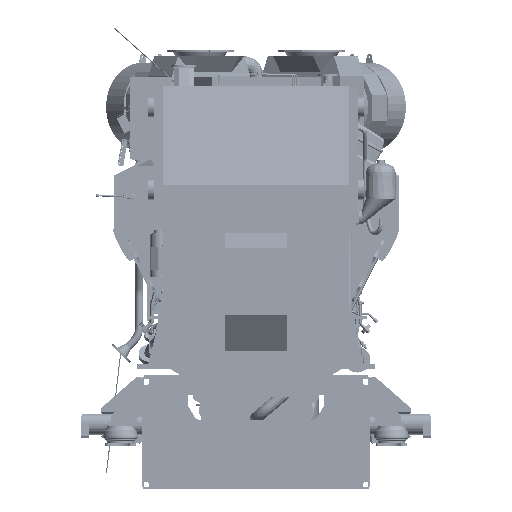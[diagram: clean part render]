
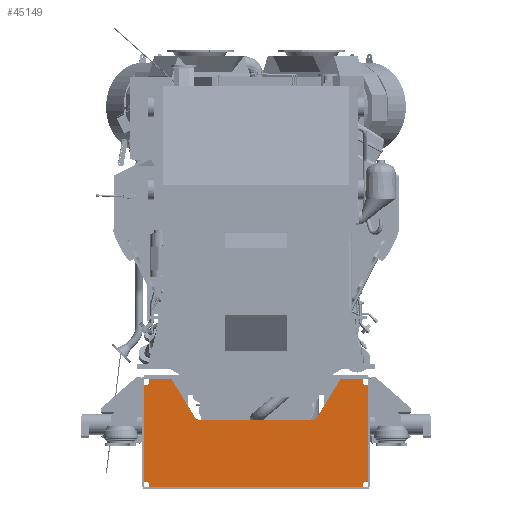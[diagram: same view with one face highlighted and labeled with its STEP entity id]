
A CAD part, left-side view. The second image highlights one B-rep face of the part: STEP entity #45149.
In plain terms, the highlighted planar face has unit normal (-1, 0, 0).
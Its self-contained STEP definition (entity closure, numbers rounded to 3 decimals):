
#34743=PLANE('',#314324);
#45149=ADVANCED_FACE('',(#68112),#34743,.T.);
#68112=FACE_OUTER_BOUND('',#82819,.T.);
#82819=EDGE_LOOP('',(#156120,#156121,#156122,#156123,#156124,#156125,#156126,
#156127,#156128,#156129,#156130,#156131,#156132,#156133,#156134,#156135,
#156136,#156137,#156138,#156139,#156140,#156141));
#106753=LINE('',#427133,#130207);
#106759=LINE('',#427146,#130213);
#106760=LINE('',#427148,#130214);
#106764=LINE('',#427157,#130218);
#106769=LINE('',#427167,#130223);
#106772=LINE('',#427174,#130226);
#106774=LINE('',#427178,#130228);
#106778=LINE('',#427187,#130232);
#106783=LINE('',#427197,#130237);
#106784=LINE('',#427199,#130238);
#106788=LINE('',#427208,#130242);
#106793=LINE('',#427218,#130247);
#106794=LINE('',#427220,#130248);
#106798=LINE('',#427229,#130252);
#106803=LINE('',#427239,#130257);
#106804=LINE('',#427241,#130258);
#130207=VECTOR('',#345289,1.);
#130213=VECTOR('',#345297,1.);
#130214=VECTOR('',#345300,1.);
#130218=VECTOR('',#345306,1.);
#130223=VECTOR('',#345313,1.);
#130226=VECTOR('',#345318,1.);
#130228=VECTOR('',#345322,1.);
#130232=VECTOR('',#345328,1.);
#130237=VECTOR('',#345335,1.);
#130238=VECTOR('',#345338,1.);
#130242=VECTOR('',#345344,1.);
#130247=VECTOR('',#345351,1.);
#130248=VECTOR('',#345354,1.);
#130252=VECTOR('',#345360,1.);
#130257=VECTOR('',#345367,1.);
#130258=VECTOR('',#345370,1.);
#156120=ORIENTED_EDGE('',*,*,#263638,.T.);
#156121=ORIENTED_EDGE('',*,*,#263644,.T.);
#156122=ORIENTED_EDGE('',*,*,#263698,.T.);
#156123=ORIENTED_EDGE('',*,*,#263645,.T.);
#156124=ORIENTED_EDGE('',*,*,#263649,.T.);
#156125=ORIENTED_EDGE('',*,*,#263654,.T.);
#156126=ORIENTED_EDGE('',*,*,#263699,.T.);
#156127=ORIENTED_EDGE('',*,*,#263657,.T.);
#156128=ORIENTED_EDGE('',*,*,#263700,.T.);
#156129=ORIENTED_EDGE('',*,*,#263659,.T.);
#156130=ORIENTED_EDGE('',*,*,#263663,.T.);
#156131=ORIENTED_EDGE('',*,*,#263668,.T.);
#156132=ORIENTED_EDGE('',*,*,#263701,.T.);
#156133=ORIENTED_EDGE('',*,*,#263669,.T.);
#156134=ORIENTED_EDGE('',*,*,#263673,.T.);
#156135=ORIENTED_EDGE('',*,*,#263678,.T.);
#156136=ORIENTED_EDGE('',*,*,#263702,.T.);
#156137=ORIENTED_EDGE('',*,*,#263679,.T.);
#156138=ORIENTED_EDGE('',*,*,#263683,.T.);
#156139=ORIENTED_EDGE('',*,*,#263688,.T.);
#156140=ORIENTED_EDGE('',*,*,#263703,.T.);
#156141=ORIENTED_EDGE('',*,*,#263689,.T.);
#235683=VERTEX_POINT('',#427134);
#235684=VERTEX_POINT('',#427135);
#235688=VERTEX_POINT('',#427145);
#235689=VERTEX_POINT('',#427149);
#235690=VERTEX_POINT('',#427150);
#235693=VERTEX_POINT('',#427158);
#235696=VERTEX_POINT('',#427166);
#235699=VERTEX_POINT('',#427173);
#235700=VERTEX_POINT('',#427175);
#235701=VERTEX_POINT('',#427179);
#235702=VERTEX_POINT('',#427180);
#235705=VERTEX_POINT('',#427188);
#235708=VERTEX_POINT('',#427196);
#235709=VERTEX_POINT('',#427200);
#235710=VERTEX_POINT('',#427201);
#235713=VERTEX_POINT('',#427209);
#235716=VERTEX_POINT('',#427217);
#235717=VERTEX_POINT('',#427221);
#235718=VERTEX_POINT('',#427222);
#235721=VERTEX_POINT('',#427230);
#235724=VERTEX_POINT('',#427238);
#235725=VERTEX_POINT('',#427242);
#263638=EDGE_CURVE('',#235683,#235684,#106753,.T.);
#263644=EDGE_CURVE('',#235684,#235688,#106759,.T.);
#263645=EDGE_CURVE('',#235689,#235690,#106760,.T.);
#263649=EDGE_CURVE('',#235690,#235693,#106764,.T.);
#263654=EDGE_CURVE('',#235693,#235696,#106769,.T.);
#263657=EDGE_CURVE('',#235700,#235699,#106772,.T.);
#263659=EDGE_CURVE('',#235701,#235702,#106774,.T.);
#263663=EDGE_CURVE('',#235702,#235705,#106778,.T.);
#263668=EDGE_CURVE('',#235705,#235708,#106783,.T.);
#263669=EDGE_CURVE('',#235709,#235710,#106784,.T.);
#263673=EDGE_CURVE('',#235710,#235713,#106788,.T.);
#263678=EDGE_CURVE('',#235713,#235716,#106793,.T.);
#263679=EDGE_CURVE('',#235717,#235718,#106794,.T.);
#263683=EDGE_CURVE('',#235718,#235721,#106798,.T.);
#263688=EDGE_CURVE('',#235721,#235724,#106803,.T.);
#263689=EDGE_CURVE('',#235725,#235683,#106804,.T.);
#263698=EDGE_CURVE('',#235688,#235689,#303326,.T.);
#263699=EDGE_CURVE('',#235696,#235700,#303327,.T.);
#263700=EDGE_CURVE('',#235699,#235701,#303328,.T.);
#263701=EDGE_CURVE('',#235708,#235709,#303329,.T.);
#263702=EDGE_CURVE('',#235716,#235717,#303330,.T.);
#263703=EDGE_CURVE('',#235724,#235725,#303331,.T.);
#303326=CIRCLE('',#314318,20.);
#303327=CIRCLE('',#314319,55.);
#303328=CIRCLE('',#314320,55.);
#303329=CIRCLE('',#314321,20.);
#303330=CIRCLE('',#314322,20.);
#303331=CIRCLE('',#314323,20.);
#314318=AXIS2_PLACEMENT_3D('',#427254,#345389,#345390);
#314319=AXIS2_PLACEMENT_3D('',#427255,#345391,#345392);
#314320=AXIS2_PLACEMENT_3D('',#427256,#345393,#345394);
#314321=AXIS2_PLACEMENT_3D('',#427257,#345395,#345396);
#314322=AXIS2_PLACEMENT_3D('',#427258,#345397,#345398);
#314323=AXIS2_PLACEMENT_3D('',#427259,#345399,#345400);
#314324=AXIS2_PLACEMENT_3D('',#427260,#345401,#345402);
#345289=DIRECTION('',(0.,0.,1.));
#345297=DIRECTION('',(0.,1.,0.));
#345300=DIRECTION('',(0.,0.,1.));
#345306=DIRECTION('',(0.,1.,0.));
#345313=DIRECTION('',(0.,0.522,-0.853));
#345318=DIRECTION('',(0.,1.,0.));
#345322=DIRECTION('',(0.,0.522,0.853));
#345328=DIRECTION('',(0.,1.,0.));
#345335=DIRECTION('',(0.,0.,-1.));
#345338=DIRECTION('',(0.,1.,0.));
#345344=DIRECTION('',(0.,0.,-1.));
#345351=DIRECTION('',(0.,-1.,0.));
#345354=DIRECTION('',(0.,0.,-1.));
#345360=DIRECTION('',(0.,-1.,0.));
#345367=DIRECTION('',(0.,0.,1.));
#345370=DIRECTION('',(0.,-1.,0.));
#345389=DIRECTION('',(1.,0.,0.));
#345390=DIRECTION('',(0.,-1.,0.));
#345391=DIRECTION('',(1.,0.,0.));
#345392=DIRECTION('',(0.,-1.,0.));
#345393=DIRECTION('',(1.,0.,0.));
#345394=DIRECTION('',(0.,-1.,0.));
#345395=DIRECTION('',(1.,0.,0.));
#345396=DIRECTION('',(0.,-1.,0.));
#345397=DIRECTION('',(1.,0.,0.));
#345398=DIRECTION('',(0.,-1.,0.));
#345399=DIRECTION('',(1.,0.,0.));
#345400=DIRECTION('',(0.,-1.,0.));
#345401=DIRECTION('',(-1.,0.,0.));
#345402=DIRECTION('',(0.,-1.,0.));
#427133=CARTESIAN_POINT('',(-8440.,-1085.,-1715.));
#427134=CARTESIAN_POINT('',(-8440.,-1085.,-1715.));
#427135=CARTESIAN_POINT('',(-8440.,-1085.,-770.));
#427145=CARTESIAN_POINT('',(-8440.,-1055.,-770.));
#427146=CARTESIAN_POINT('',(-8440.,-1085.,-770.));
#427148=CARTESIAN_POINT('',(-8440.,-1035.,-770.));
#427149=CARTESIAN_POINT('',(-8440.,-1035.,-750.));
#427150=CARTESIAN_POINT('',(-8440.,-1035.,-720.));
#427157=CARTESIAN_POINT('',(-8440.,-1035.,-720.));
#427158=CARTESIAN_POINT('',(-8440.,-815.,-720.));
#427166=CARTESIAN_POINT('',(-8440.,-592.9,-1082.721));
#427167=CARTESIAN_POINT('',(-8440.,-815.,-720.));
#427173=CARTESIAN_POINT('',(-8440.,545.995,-1109.));
#427174=CARTESIAN_POINT('',(-8440.,0.,-1109.));
#427175=CARTESIAN_POINT('',(-8440.,-545.995,-1109.));
#427178=CARTESIAN_POINT('',(-8440.,576.809,-1109.));
#427179=CARTESIAN_POINT('',(-8440.,592.9,-1082.721));
#427180=CARTESIAN_POINT('',(-8440.,815.,-720.));
#427187=CARTESIAN_POINT('',(-8440.,815.,-720.));
#427188=CARTESIAN_POINT('',(-8440.,1035.,-720.));
#427196=CARTESIAN_POINT('',(-8440.,1035.,-750.));
#427197=CARTESIAN_POINT('',(-8440.,1035.,-720.));
#427199=CARTESIAN_POINT('',(-8440.,1035.,-770.));
#427200=CARTESIAN_POINT('',(-8440.,1055.,-770.));
#427201=CARTESIAN_POINT('',(-8440.,1085.,-770.));
#427208=CARTESIAN_POINT('',(-8440.,1085.,-770.));
#427209=CARTESIAN_POINT('',(-8440.,1085.,-1715.));
#427217=CARTESIAN_POINT('',(-8440.,1055.,-1715.));
#427218=CARTESIAN_POINT('',(-8440.,1085.,-1715.));
#427220=CARTESIAN_POINT('',(-8440.,1035.,-1715.));
#427221=CARTESIAN_POINT('',(-8440.,1035.,-1735.));
#427222=CARTESIAN_POINT('',(-8440.,1035.,-1765.));
#427229=CARTESIAN_POINT('',(-8440.,0.,-1765.));
#427230=CARTESIAN_POINT('',(-8440.,-1035.,-1765.));
#427238=CARTESIAN_POINT('',(-8440.,-1035.,-1735.));
#427239=CARTESIAN_POINT('',(-8440.,-1035.,-1765.));
#427241=CARTESIAN_POINT('',(-8440.,-1035.,-1715.));
#427242=CARTESIAN_POINT('',(-8440.,-1055.,-1715.));
#427254=CARTESIAN_POINT('',(-8440.,-1055.,-750.));
#427255=CARTESIAN_POINT('',(-8440.,-545.995,-1054.));
#427256=CARTESIAN_POINT('',(-8440.,545.995,-1054.));
#427257=CARTESIAN_POINT('',(-8440.,1055.,-750.));
#427258=CARTESIAN_POINT('',(-8440.,1055.,-1735.));
#427259=CARTESIAN_POINT('',(-8440.,-1055.,-1735.));
#427260=CARTESIAN_POINT('',(-8440.,0.,-1765.));
